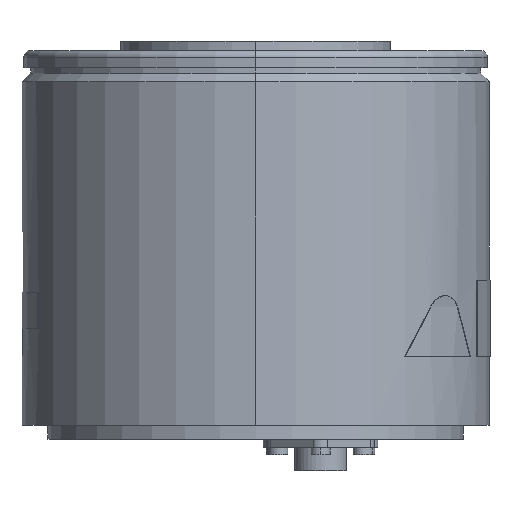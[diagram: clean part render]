
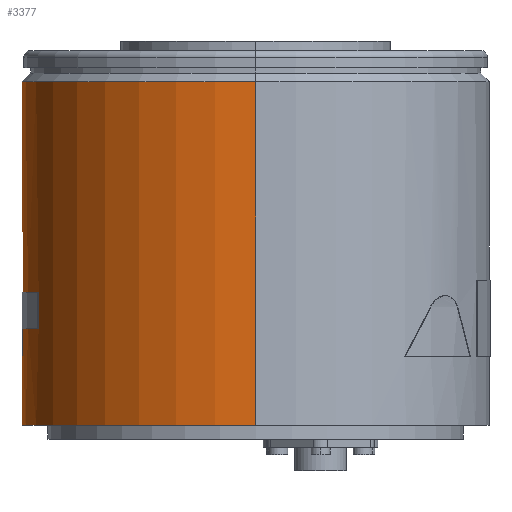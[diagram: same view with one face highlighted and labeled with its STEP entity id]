
A CAD part, left-side view. The second image highlights one B-rep face of the part: STEP entity #3377.
In plain terms, the highlighted cylindrical face has radius 67.5 mm (diameter 135 mm), a partial arc.
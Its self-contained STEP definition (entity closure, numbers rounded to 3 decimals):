
#3272 = VERTEX_POINT ( 'NONE', #7610 ) ;
#3352 = VERTEX_POINT ( 'NONE', #7762 ) ;
#3354 = EDGE_CURVE ( 'NONE', #3272, #3352, #7760, .T. ) ;
#3358 = EDGE_CURVE ( 'NONE', #3385, #3359, #7813, .T. ) ;
#3359 = VERTEX_POINT ( 'NONE', #7809 ) ;
#3360 = ORIENTED_EDGE ( 'NONE', *, *, #3361, .T. ) ;
#3361 = EDGE_CURVE ( 'NONE', #3359, #3381, #7808, .T. ) ;
#3362 = EDGE_LOOP ( 'NONE', ( #3363, #3364, #3367, #3370 ) ) ;
#3363 = ORIENTED_EDGE ( 'NONE', *, *, #3354, .T. ) ;
#3364 = ORIENTED_EDGE ( 'NONE', *, *, #3365, .T. ) ;
#3365 = EDGE_CURVE ( 'NONE', #3352, #3366, #7803, .T. ) ;
#3366 = VERTEX_POINT ( 'NONE', #7799 ) ;
#3367 = ORIENTED_EDGE ( 'NONE', *, *, #3368, .F. ) ;
#3368 = EDGE_CURVE ( 'NONE', #3369, #3366, #7798, .T. ) ;
#3369 = VERTEX_POINT ( 'NONE', #7793 ) ;
#3370 = ORIENTED_EDGE ( 'NONE', *, *, #3371, .F. ) ;
#3371 = EDGE_CURVE ( 'NONE', #3272, #3369, #7792, .T. ) ;
#3377 = ADVANCED_FACE ( 'NONE', ( #7840, #7839 ), #7838, .T. ) ;
#3378 = EDGE_LOOP ( 'NONE', ( #3379, #3383, #3386, #3360 ) ) ;
#3379 = ORIENTED_EDGE ( 'NONE', *, *, #3380, .T. ) ;
#3380 = EDGE_CURVE ( 'NONE', #3381, #3382, #7837, .T. ) ;
#3381 = VERTEX_POINT ( 'NONE', #7829 ) ;
#3382 = VERTEX_POINT ( 'NONE', #7828 ) ;
#3383 = ORIENTED_EDGE ( 'NONE', *, *, #3384, .T. ) ;
#3384 = EDGE_CURVE ( 'NONE', #3382, #3385, #7827, .T. ) ;
#3385 = VERTEX_POINT ( 'NONE', #7822 ) ;
#3386 = ORIENTED_EDGE ( 'NONE', *, *, #3358, .T. ) ;
#7610 = CARTESIAN_POINT ( 'NONE',  ( -67.5, 0., 103.3 ) ) ;
#7758 = CARTESIAN_POINT ( 'NONE',  ( 0., 0., 103.3 ) ) ;
#7759 = AXIS2_PLACEMENT_3D ( 'NONE', #7758, #7820, #7819 ) ;
#7760 = CIRCLE ( 'NONE', #7759, 67.5 ) ;
#7762 = CARTESIAN_POINT ( 'NONE',  ( 67.5, 0., 103.3 ) ) ;
#7789 = DIRECTION ( 'NONE',  ( 0., 0., -1. ) ) ;
#7790 = VECTOR ( 'NONE', #7789, 1000. ) ;
#7791 = CARTESIAN_POINT ( 'NONE',  ( -67.5, 0., -59.236 ) ) ;
#7792 = LINE ( 'NONE', #7791, #7790 ) ;
#7793 = CARTESIAN_POINT ( 'NONE',  ( -67.5, 0., 4. ) ) ;
#7794 = DIRECTION ( 'NONE',  ( -1., 0., 0. ) ) ;
#7795 = DIRECTION ( 'NONE',  ( 0., 0., -1. ) ) ;
#7796 = CARTESIAN_POINT ( 'NONE',  ( 0., 0., 4. ) ) ;
#7797 = AXIS2_PLACEMENT_3D ( 'NONE', #7796, #7795, #7794 ) ;
#7798 = CIRCLE ( 'NONE', #7797, 67.5 ) ;
#7799 = CARTESIAN_POINT ( 'NONE',  ( 67.5, 0., 4. ) ) ;
#7800 = DIRECTION ( 'NONE',  ( 0., 0., -1. ) ) ;
#7801 = VECTOR ( 'NONE', #7800, 1000. ) ;
#7802 = CARTESIAN_POINT ( 'NONE',  ( 67.5, 0., -59.236 ) ) ;
#7803 = LINE ( 'NONE', #7802, #7801 ) ;
#7804 = DIRECTION ( 'NONE',  ( 1., 0., 0. ) ) ;
#7805 = DIRECTION ( 'NONE',  ( 0., 0., -1. ) ) ;
#7806 = CARTESIAN_POINT ( 'NONE',  ( 0., 0., 32. ) ) ;
#7807 = AXIS2_PLACEMENT_3D ( 'NONE', #7806, #7805, #7804 ) ;
#7808 = CIRCLE ( 'NONE', #7807, 67.5 ) ;
#7809 = CARTESIAN_POINT ( 'NONE',  ( -25., 62.7, 32. ) ) ;
#7810 = DIRECTION ( 'NONE',  ( 0., 0., -1. ) ) ;
#7811 = VECTOR ( 'NONE', #7810, 1000. ) ;
#7812 = CARTESIAN_POINT ( 'NONE',  ( -25., 62.7, -59.236 ) ) ;
#7813 = LINE ( 'NONE', #7812, #7811 ) ;
#7819 = DIRECTION ( 'NONE',  ( -1., 0., 0. ) ) ;
#7820 = DIRECTION ( 'NONE',  ( 0., 0., -1. ) ) ;
#7822 = CARTESIAN_POINT ( 'NONE',  ( -25., 62.7, 42.5 ) ) ;
#7823 = DIRECTION ( 'NONE',  ( -1., 0., 0. ) ) ;
#7824 = DIRECTION ( 'NONE',  ( 0., 0., 1. ) ) ;
#7825 = CARTESIAN_POINT ( 'NONE',  ( 0., 0., 42.5 ) ) ;
#7826 = AXIS2_PLACEMENT_3D ( 'NONE', #7825, #7824, #7823 ) ;
#7827 = CIRCLE ( 'NONE', #7826, 67.5 ) ;
#7828 = CARTESIAN_POINT ( 'NONE',  ( 25., 62.7, 42.5 ) ) ;
#7829 = CARTESIAN_POINT ( 'NONE',  ( 25., 62.7, 32. ) ) ;
#7830 = DIRECTION ( 'NONE',  ( 0., 0., 1. ) ) ;
#7831 = VECTOR ( 'NONE', #7830, 1000. ) ;
#7832 = CARTESIAN_POINT ( 'NONE',  ( 25., 62.7, -59.236 ) ) ;
#7833 = DIRECTION ( 'NONE',  ( -1., 0., 0. ) ) ;
#7834 = DIRECTION ( 'NONE',  ( 0., 0., -1. ) ) ;
#7835 = CARTESIAN_POINT ( 'NONE',  ( 0., 0., -59.236 ) ) ;
#7836 = AXIS2_PLACEMENT_3D ( 'NONE', #7835, #7834, #7833 ) ;
#7837 = LINE ( 'NONE', #7832, #7831 ) ;
#7838 = CYLINDRICAL_SURFACE ( 'NONE', #7836, 67.5 ) ;
#7839 = FACE_OUTER_BOUND ( 'NONE', #3362, .T. ) ;
#7840 = FACE_BOUND ( 'NONE', #3378, .T. ) ;
